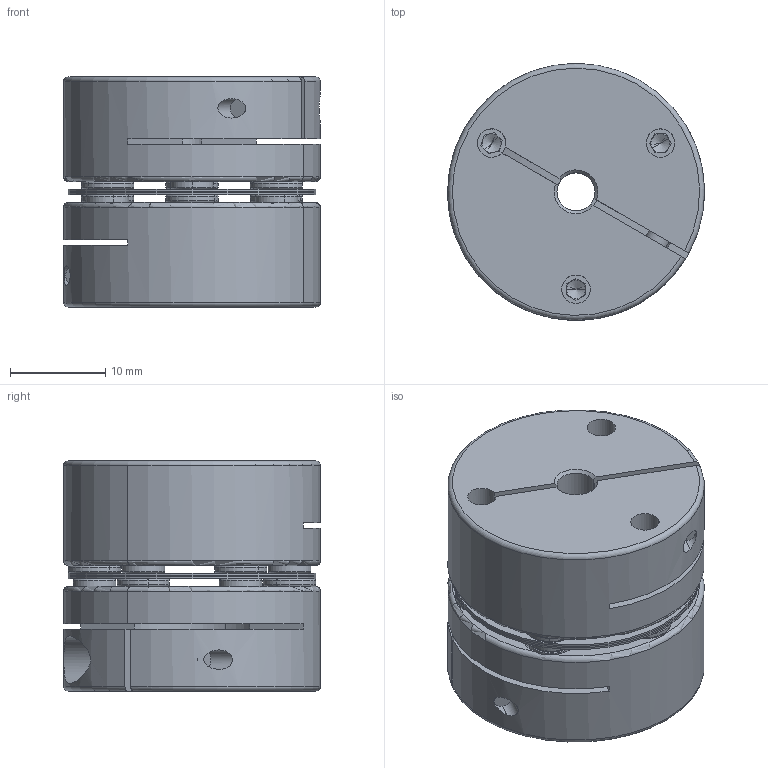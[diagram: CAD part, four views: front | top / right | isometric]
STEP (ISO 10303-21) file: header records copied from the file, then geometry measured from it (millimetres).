
FILE_DESCRIPTION (( 'STEP AP203' ), '1' );
FILE_NAME ('SADS-27C.STEP', '2026-04-23T09:38:31', ( '' ), ( '' ), 'SwSTEP 2.0', 'SolidWorks 2026', '' );
FILE_SCHEMA (( 'CONFIG_CONTROL_DESIGN' ));
Length unit declared in the file: millimetre
Products named in the file (9): SAD-27 BOLT COLLOR; SAD-27 SUS판+COLLAR; SAD-27C_4; SAD-27C_14; SADS-27C; SAD-27 SUS판_0.2T; KS 1003 - M2.6 x 6 x 6-N_KS 1003 - M2.6 x 6 x 6-N; KS 1003 - M2.6 x 10 x 10-N_KS 1003 - M2.6 x 10 x 10-N; SAD-27 COLLAR
Assembly tree (26 placements, depth 3):
  SADS-27C
    SAD-27 SUS판+COLLAR
      SAD-27 SUS판_0.2T  x3
      SAD-27 COLLAR  x6
      SAD-27 BOLT COLLOR  x6
    SAD-27C_4
    KS 1003 - M2.6 x 6 x 6-N_KS 1003 - M2.6 x 6 x 6-N  x6
    SAD-27C_14
    KS 1003 - M2.6 x 10 x 10-N_KS 1003 - M2.6 x 10 x 10-N  x2
Bounding box: 27 x 27 x 24.2 mm (x, y, z)
Volume: 10043.6 mm3; surface area: 10296.8 mm2
Topology: 25 solids, 25 shells, 636 faces, 1450 edges, 856 vertices
Faces by surface type: cylinder 219, plane 179, cone 130, torus 102, bspline 6
Entity records: 10761 total; most frequent: CARTESIAN_POINT 2576, DIRECTION 1542, ORIENTED_EDGE 1332, EDGE_CURVE 666, AXIS2_PLACEMENT_3D 640, VERTEX_POINT 410, CIRCLE 342, EDGE_LOOP 334
